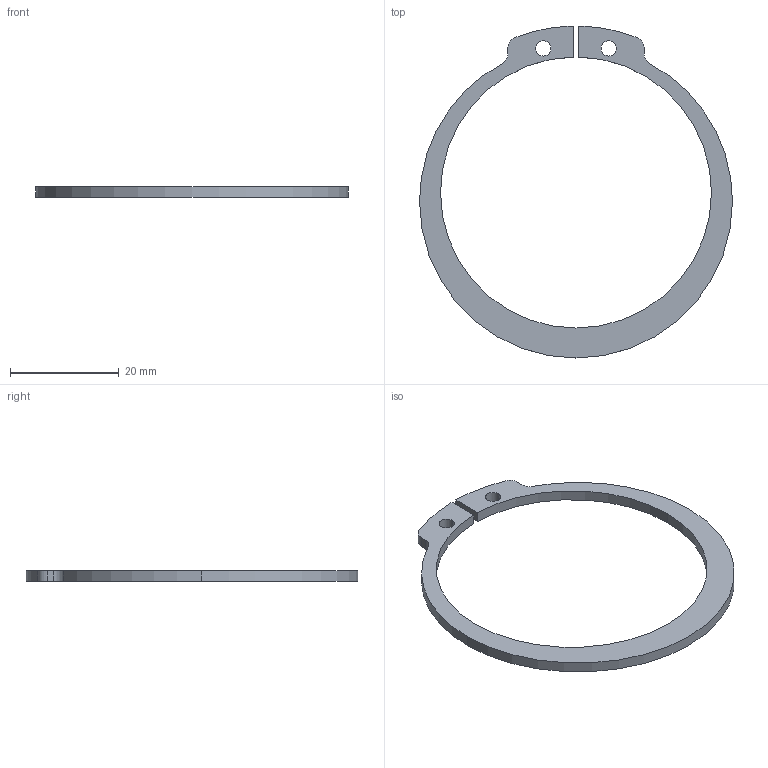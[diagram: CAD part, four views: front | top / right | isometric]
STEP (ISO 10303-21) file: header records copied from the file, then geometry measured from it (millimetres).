
FILE_DESCRIPTION(('CATIA V5 STEP Exchange'),'2;1');
FILE_NAME('C:\Users\Utente\Desktop\IO LAVORO\3D X SITO CF\X SITO\PLASTICA\553S\553S-R54.stp','2021-04-21T09:14:07+00:00',('none'),('none'),'CATIA Version 5 Release 20 GA (IN-10)','CATIA V5 STEP AP203','none');
FILE_SCHEMA(('CONFIG_CONTROL_DESIGN'));
Length unit declared in the file: millimetre
Products named in the file (1): 553S-R54
Bounding box: 57.5 x 61 x 2 mm (x, y, z)
Volume: 1439.3 mm3; surface area: 2179.8 mm2
Topology: 1 solids, 1 shells, 22 faces, 60 edges, 40 vertices
Faces by surface type: cylinder 16, plane 6
Entity records: 724 total; most frequent: CARTESIAN_POINT 121, ORIENTED_EDGE 120, DIRECTION 100, EDGE_CURVE 60, AXIS2_PLACEMENT_3D 53, VERTEX_POINT 40, CIRCLE 32, VECTOR 28
